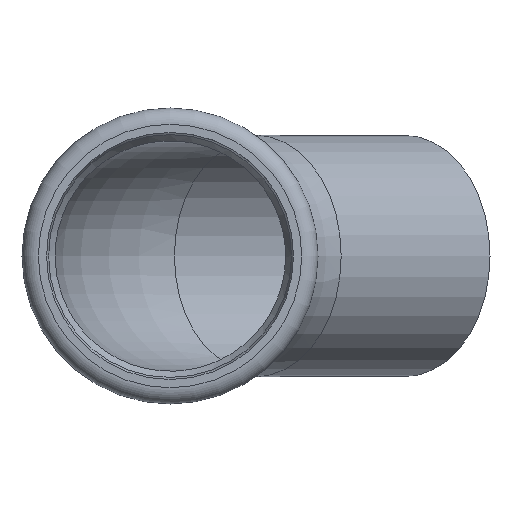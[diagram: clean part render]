
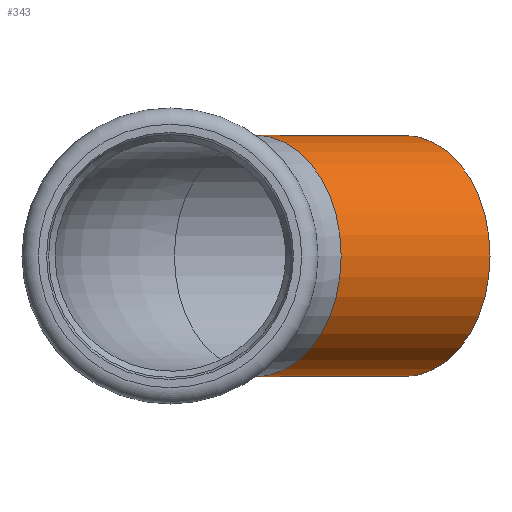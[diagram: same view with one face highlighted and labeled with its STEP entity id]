
A CAD part, left-side view. The second image highlights one B-rep face of the part: STEP entity #343.
In plain terms, the highlighted cylindrical face has radius 44.45 mm (diameter 88.9 mm), a full revolution.
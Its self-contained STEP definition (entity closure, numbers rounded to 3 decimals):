
#316=CARTESIAN_POINT('',(76.368,-31.632,0.0));
#317=DIRECTION('',(0.707,-0.707,0.0));
#318=DIRECTION('',(-0.707,-0.707,0.0));
#319=AXIS2_PLACEMENT_3D('',#316,#317,#318);
#320=CYLINDRICAL_SURFACE('',#319,44.45);
#321=CARTESIAN_POINT('',(162.645,-55.048,0.));
#322=VERTEX_POINT('',#321);
#323=CARTESIAN_POINT('',(131.214,-86.479,0.0));
#324=DIRECTION('',(-0.707,0.707,0.0));
#325=DIRECTION('',(-0.707,-0.707,0.0));
#326=AXIS2_PLACEMENT_3D('',#323,#324,#325);
#327=CIRCLE('',#326,44.45);
#328=EDGE_CURVE('',#322,#322,#327,.T.);
#329=ORIENTED_EDGE('',*,*,#328,.T.);
#330=EDGE_LOOP('',(#329));
#331=FACE_OUTER_BOUND('',#330,.T.);
#332=CARTESIAN_POINT('',(107.798,-0.202,0.));
#333=VERTEX_POINT('',#332);
#334=CARTESIAN_POINT('',(76.368,-31.632,0.0));
#335=DIRECTION('',(-0.707,0.707,0.0));
#336=DIRECTION('',(-0.707,-0.707,0.0));
#337=AXIS2_PLACEMENT_3D('',#334,#335,#336);
#338=CIRCLE('',#337,44.45);
#339=EDGE_CURVE('',#333,#333,#338,.T.);
#340=ORIENTED_EDGE('',*,*,#339,.F.);
#341=EDGE_LOOP('',(#340));
#342=FACE_BOUND('',#341,.T.);
#343=ADVANCED_FACE('',(#331,#342),#320,.T.);
